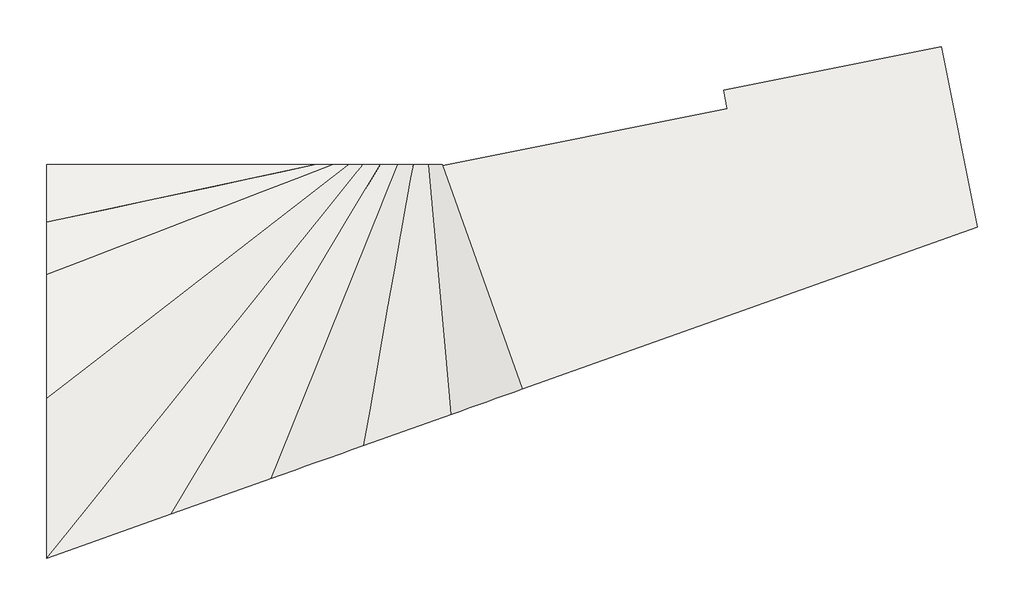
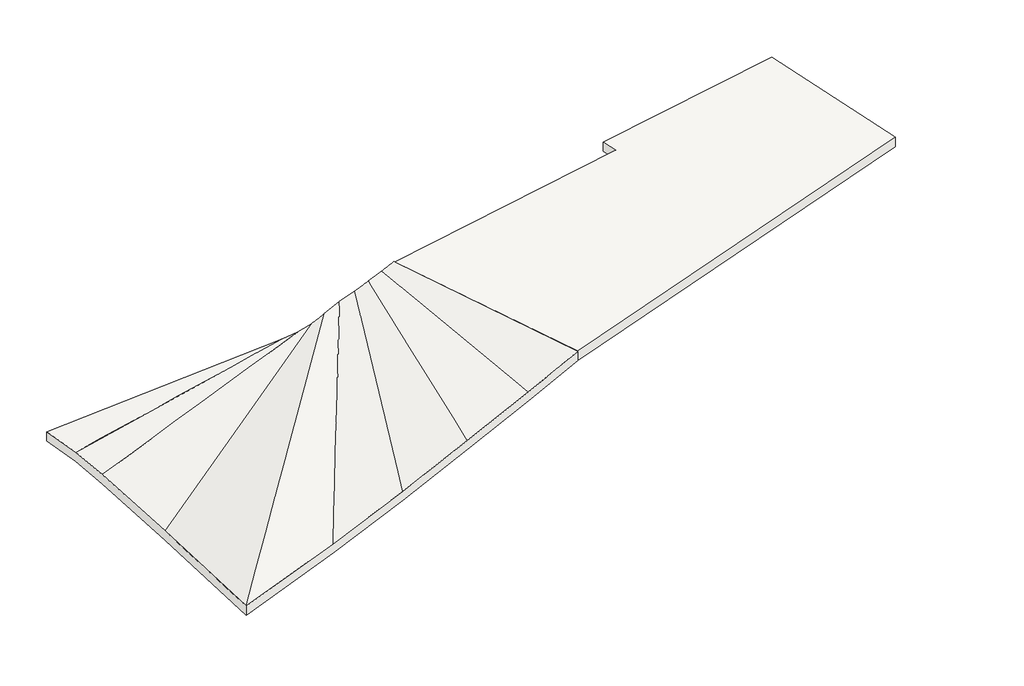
# One storey: 2 slabs.
"""IFC4 building model written with IfcOpenShell, lengths in millimetres."""

from ifc_helpers import new_model, si_unit, frame, origin, place, context, project, spatial, polyline, outline, extrude, element, save
from ifc_brep_helpers import plane_surface, spline_surface, advanced_brep

model = new_model("IFC4")

# Units and contexts
model_context = context("Model", 3, world=origin())
ifc_project = project(units=[si_unit("LENGTHUNIT", "METRE", prefix="MILLI")], contexts=[model_context])

# Site, building, storey
site = spatial("IfcSite", under=ifc_project)
building = spatial("IfcBuilding", under=site)
storey = spatial("IfcBuildingStorey", under=building, Name="SÓTANO 1/B", Elevation=-4000.0)

# Slabs
placement = place(None, origin())
element("IfcSlab", 1, ObjectType="Losa sótano", at=placement, inside=storey, context=model_context, shape_type="SweptSolid", body=[
    extrude(outline(polyline([(44905.5657185, 20007.6469323), (43109.5059119, 25047.7531826), (49530.3284238, 26333.7722391), (49446.6698952, 26751.4616666), (54349.3007676, 27733.4038894), (55164.4684041, 23663.4434291), (44905.5657185, 20007.6469323)])), frame((0.0, 0.0, -4250.0), z_axis=(0.0, 0.0, 1.0), x_axis=(1.0, 0.0, 0.0)), (0.0, 0.0, 1.0), 250.0),
])
element("IfcSlab", 2, ObjectType="Losa sótano en rampa", at=placement, inside=storey, context=model_context, shape_type="AdvancedBrep", body=[
    advanced_brep(
    [(43096.9799814, 25064.0112971, -4250.0), (43096.9799814, 25064.0112971, -4000.0), (44899.5920131, 20005.5181811, -4000.0), (44899.5920131, 20005.5181811, -4250.0), (43303.4887579, 19436.7411035, -4200.0), (41335.8347503, 18735.5605924, -4400.0), (39243.2707728, 17989.8679689, -4600.0), (36996.3545924, 17189.1713883, -4750.0), (34183.8589874, 16186.9285662, -4850.0), (34183.8589874, 16186.9285662, -5100.0), (36996.3545924, 17189.1713883, -5000.0), (39243.2707728, 17989.8679689, -4850.0), (41335.8347503, 18735.5605924, -4650.0), (43303.4887579, 19436.7411035, -4450.0), (34183.8589874, 19791.0738862, -5000.0), (34183.8589874, 22587.5627722, -5160.0), (34183.8589874, 23768.6098341, -5270.0), (34183.8589874, 25064.0112971, -5500.0), (34183.8589874, 25064.0112971, -5750.0), (34183.8589874, 23768.6098341, -5520.0), (34183.8589874, 22587.5627722, -5410.0), (34183.8589874, 19791.0738862, -5250.0), (40233.7519119, 25064.0112971, -5100.0), (40629.338533, 25064.0112971, -5050.0), (40983.4673275, 25064.0112971, -4950.0), (41305.7455617, 25064.0112971, -4800.0), (41700.2345314, 25064.0112971, -4600.0), (42097.343895, 25064.0112971, -4450.0), (42444.1101763, 25064.0112971, -4300.0), (42794.9948724, 25064.0112971, -4150.0), (42794.9948724, 25064.0112971, -4400.0), (42444.1101763, 25064.0112971, -4550.0), (42097.343895, 25064.0112971, -4700.0), (41700.2345314, 25064.0112971, -4850.0), (41305.7455617, 25064.0112971, -5050.0), (40983.4673275, 25064.0112971, -5200.0), (40629.338533, 25064.0112971, -5300.0), (40233.7519119, 25064.0112971, -5350.0)],
    [
        (0, 1),
        (1, 2),
        (2, 3),
        (3, 0),
        (2, 4),
        (4, 5),
        (5, 6),
        (6, 7),
        (7, 8),
        (8, 9),
        (9, 10),
        (10, 11),
        (11, 12),
        (12, 13),
        (13, 3),
        (8, 14),
        (14, 15),
        (15, 16),
        (16, 17),
        (17, 18),
        (18, 19),
        (19, 20),
        (20, 21),
        (21, 9),
        (17, 22),
        (22, 23),
        (23, 24),
        (24, 25),
        (25, 26),
        (26, 27),
        (27, 28),
        (28, 29),
        (29, 1),
        (0, 30),
        (30, 31),
        (31, 32),
        (32, 33),
        (33, 34),
        (34, 35),
        (35, 36),
        (36, 37),
        (37, 18),
        (29, 4),
        (13, 30),
        (28, 5),
        (12, 31),
        (27, 6),
        (11, 32),
        (26, 7),
        (10, 33),
        (25, 8),
        (9, 34),
        (24, 14),
        (21, 35),
        (23, 15),
        (20, 36),
        (22, 16),
        (19, 37),
    ],
    [
        plane_surface(frame((43096.9799814, 25064.0112971, -4250.0), z_axis=(0.9419771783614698, 0.3356769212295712, 0.0), x_axis=(0.0, 0.0, 1.0))),
        plane_surface(frame((44899.5920131, 20005.5181811, -4250.0), z_axis=(0.335676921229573, -0.9419771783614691, 0.0), x_axis=(0.0, 0.0, 1.0))),
        plane_surface(frame((34183.8589874, 16186.9285662, -4250.0), z_axis=(-1.0, 0.0, 0.0), x_axis=(0.0, 0.0, 1.0))),
        plane_surface(frame((34183.8589874, 25064.0112971, -4250.0), z_axis=(0.0, 1.0, 0.0), x_axis=(0.0, 0.0, 1.0))),
        spline_surface(1, 1, [[(43096.9799814, 25064.0112971, -4000.0), (44899.5920131, 20005.5181811, -4000.0)], [(42794.9948724, 25064.0112971, -4150.0), (43303.4887579, 19436.7411035, -4200.0)]], [2, 2], [2, 2], [0.0, 1.0], [0.0, 1.0]),
        spline_surface(1, 1, [[(43096.9799814, 25064.0112971, -4250.0), (42794.9948724, 25064.0112971, -4400.0)], [(44899.5920131, 20005.5181811, -4250.0), (43303.4887579, 19436.7411035, -4450.0)]], [2, 2], [2, 2], [0.0, 1.0], [0.0, 1.0]),
        spline_surface(1, 1, [[(42444.1101763, 25064.0112971, -4300.0), (42794.9948724, 25064.0112971, -4150.0)], [(41335.8347503, 18735.5605924, -4400.0), (43303.4887579, 19436.7411035, -4200.0)]], [2, 2], [2, 2], [0.0, 1.0], [0.0, 1.0]),
        spline_surface(1, 1, [[(42444.1101763, 25064.0112971, -4550.0), (41335.8347503, 18735.5605924, -4650.0)], [(42794.9948724, 25064.0112971, -4400.0), (43303.4887579, 19436.7411035, -4450.0)]], [2, 2], [2, 2], [0.0, 1.0], [0.0, 1.0]),
        spline_surface(1, 1, [[(42444.1101763, 25064.0112971, -4300.0), (41335.8347503, 18735.5605924, -4400.0)], [(42097.343895, 25064.0112971, -4450.0), (39243.2707728, 17989.8679689, -4600.0)]], [2, 2], [2, 2], [0.0, 1.0], [0.0, 1.0]),
        spline_surface(1, 1, [[(42444.1101763, 25064.0112971, -4550.0), (42097.343895, 25064.0112971, -4700.0)], [(41335.8347503, 18735.5605924, -4650.0), (39243.2707728, 17989.8679689, -4850.0)]], [2, 2], [2, 2], [0.0, 1.0], [0.0, 1.0]),
        spline_surface(1, 1, [[(41700.2345314, 25064.0112971, -4600.0), (42097.343895, 25064.0112971, -4450.0)], [(36996.3545924, 17189.1713883, -4750.0), (39243.2707728, 17989.8679689, -4600.0)]], [2, 2], [2, 2], [0.0, 1.0], [0.0, 1.0]),
        spline_surface(1, 1, [[(41700.2345314, 25064.0112971, -4850.0), (36996.3545924, 17189.1713883, -5000.0)], [(42097.343895, 25064.0112971, -4700.0), (39243.2707728, 17989.8679689, -4850.0)]], [2, 2], [2, 2], [0.0, 1.0], [0.0, 1.0]),
        spline_surface(1, 1, [[(36996.3545924, 17189.1713883, -4750.0), (34183.8589874, 16186.9285662, -4850.0)], [(41700.2345314, 25064.0112971, -4600.0), (41305.7455617, 25064.0112971, -4800.0)]], [2, 2], [2, 2], [0.0, 1.0], [0.0, 1.0]),
        spline_surface(1, 1, [[(36996.3545924, 17189.1713883, -5000.0), (41700.2345314, 25064.0112971, -4850.0)], [(34183.8589874, 16186.9285662, -5100.0), (41305.7455617, 25064.0112971, -5050.0)]], [2, 2], [2, 2], [0.0, 1.0], [0.0, 1.0]),
        spline_surface(1, 1, [[(41305.7455617, 25064.0112971, -4800.0), (34183.8589874, 16186.9285662, -4850.0)], [(40983.4673275, 25064.0112971, -4950.0), (34183.8589874, 19791.0738862, -5000.0)]], [2, 2], [2, 2], [0.0, 1.0], [0.0, 1.0]),
        spline_surface(1, 1, [[(41305.7455617, 25064.0112971, -5050.0), (40983.4673275, 25064.0112971, -5200.0)], [(34183.8589874, 16186.9285662, -5100.0), (34183.8589874, 19791.0738862, -5250.0)]], [2, 2], [2, 2], [0.0, 1.0], [0.0, 1.0]),
        spline_surface(1, 1, [[(40629.338533, 25064.0112971, -5050.0), (40983.4673275, 25064.0112971, -4950.0)], [(34183.8589874, 22587.5627722, -5160.0), (34183.8589874, 19791.0738862, -5000.0)]], [2, 2], [2, 2], [0.0, 1.0], [0.0, 1.0]),
        spline_surface(1, 1, [[(40629.338533, 25064.0112971, -5300.0), (34183.8589874, 22587.5627722, -5410.0)], [(40983.4673275, 25064.0112971, -5200.0), (34183.8589874, 19791.0738862, -5250.0)]], [2, 2], [2, 2], [0.0, 1.0], [0.0, 1.0]),
        spline_surface(1, 1, [[(40233.7519119, 25064.0112971, -5100.0), (40629.338533, 25064.0112971, -5050.0)], [(34183.8589874, 23768.6098341, -5270.0), (34183.8589874, 22587.5627722, -5160.0)]], [2, 2], [2, 2], [0.0, 1.0], [0.0, 1.0]),
        plane_surface(frame((36200.4899623, 24632.2108095, -5290.0), z_axis=(-0.0649612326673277, 0.17444776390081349, 0.9825212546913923), x_axis=(0.0, -0.9846009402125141, 0.17481701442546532))),
        spline_surface(1, 1, [[(40233.7519119, 25064.0112971, -5350.0), (34183.8589874, 23768.6098341, -5520.0)], [(40629.338533, 25064.0112971, -5300.0), (34183.8589874, 22587.5627722, -5410.0)]], [2, 2], [2, 2], [0.0, 1.0], [0.0, 1.0]),
        plane_surface(frame((36200.4899623, 24632.2108095, -5540.0), z_axis=(0.0649612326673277, -0.17444776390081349, -0.9825212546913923), x_axis=(0.0, -0.9846009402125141, 0.17481701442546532))),
    ],
    [
        (0, [[1, 2, 3, 4]]),
        (1, [[-3, 5, 6, 7, 8, 9, 10, 11, 12, 13, 14, 15]]),
        (2, [[-10, 16, 17, 18, 19, 20, 21, 22, 23, 24]]),
        (3, [[-20, 25, 26, 27, 28, 29, 30, 31, 32, 33, -1, 34, 35, 36, 37, 38, 39, 40, 41, 42]]),
        (4, [[-2, -33, 43, -5]]),
        (5, [[-15, 44, -34, -4]]),
        (6, [[-32, 45, -6, -43]]),
        (7, [[-44, -14, 46, -35]]),
        (8, [[-45, -31, 47, -7]]),
        (9, [[-13, 48, -36, -46]]),
        (10, [[-30, 49, -8, -47]]),
        (11, [[-48, -12, 50, -37]]),
        (12, [[-9, -49, -29, 51]]),
        (13, [[52, -38, -50, -11]]),
        (14, [[-51, -28, 53, -16]]),
        (15, [[-24, 54, -39, -52]]),
        (16, [[-27, 55, -17, -53]]),
        (17, [[-54, -23, 56, -40]]),
        (18, [[-26, 57, -18, -55]]),
        (19, [[-19, -57, -25]]),
        (20, [[-56, -22, 58, -41]]),
        (21, [[-42, -58, -21]]),
    ],
),
])

save(model, "model.ifc")
